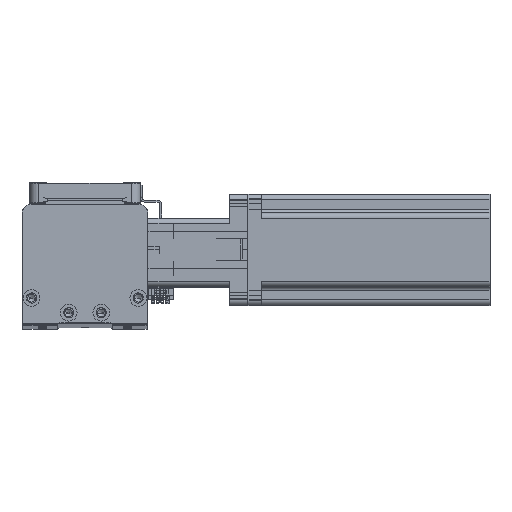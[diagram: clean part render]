
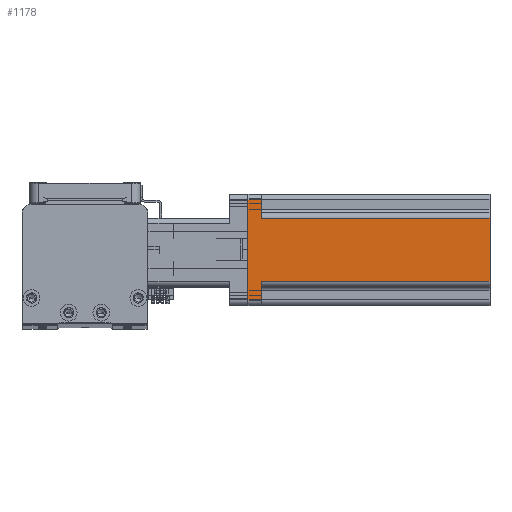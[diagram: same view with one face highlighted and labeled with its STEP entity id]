
A CAD part, top view. The second image highlights one B-rep face of the part: STEP entity #1178.
In plain terms, the highlighted planar face has unit normal (0, 0, 1) as drawn and (1, 0, 0) by its records, which use the part's own axes.
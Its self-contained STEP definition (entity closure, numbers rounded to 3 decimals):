
#156 = CARTESIAN_POINT ( 'NONE',  ( 30., -17., 7.5 ) ) ;
#222 = AXIS2_PLACEMENT_3D ( 'NONE', #35404, #35274, #35085 ) ;
#515 = FACE_OUTER_BOUND ( 'NONE', #14268, .T. ) ;
#1178 = ADVANCED_FACE ( 'NONE', ( #515 ), #37528, .F. ) ;
#2740 = DIRECTION ( 'NONE',  ( 0., 1., 0. ) ) ;
#3654 = CARTESIAN_POINT ( 'NONE',  ( 30., -27., 0. ) ) ;
#4729 = CARTESIAN_POINT ( 'NONE',  ( 30., -17., 7.5 ) ) ;
#5247 = DIRECTION ( 'NONE',  ( 0., -1., 0. ) ) ;
#5968 = VECTOR ( 'NONE', #5247, 1000. ) ;
#6791 = VERTEX_POINT ( 'NONE', #37636 ) ;
#8537 = VERTEX_POINT ( 'NONE', #44344 ) ;
#8849 = LINE ( 'NONE', #35181, #17633 ) ;
#9003 = VERTEX_POINT ( 'NONE', #42489 ) ;
#10009 = VECTOR ( 'NONE', #29462, 1000. ) ;
#10671 = ORIENTED_EDGE ( 'NONE', *, *, #31857, .T. ) ;
#11302 = VERTEX_POINT ( 'NONE', #38621 ) ;
#11330 = LINE ( 'NONE', #33420, #30100 ) ;
#12358 = VERTEX_POINT ( 'NONE', #21961 ) ;
#13183 = ORIENTED_EDGE ( 'NONE', *, *, #31565, .T. ) ;
#13857 = ORIENTED_EDGE ( 'NONE', *, *, #31641, .T. ) ;
#14268 = EDGE_LOOP ( 'NONE', ( #29726, #31354, #13183, #13857, #25403, #10671, #35554, #28436 ) ) ;
#15333 = VECTOR ( 'NONE', #37335, 1000. ) ;
#16513 = DIRECTION ( 'NONE',  ( 0., 0., 1. ) ) ;
#17491 = VERTEX_POINT ( 'NONE', #3654 ) ;
#17633 = VECTOR ( 'NONE', #16513, 1000. ) ;
#18205 = LINE ( 'NONE', #47362, #30529 ) ;
#20713 = CARTESIAN_POINT ( 'NONE',  ( 30., 17., 130.7 ) ) ;
#21961 = CARTESIAN_POINT ( 'NONE',  ( 30., 27., 7.5 ) ) ;
#24885 = EDGE_CURVE ( 'NONE', #17491, #9003, #46826, .T. ) ;
#25403 = ORIENTED_EDGE ( 'NONE', *, *, #24885, .T. ) ;
#25776 = DIRECTION ( 'NONE',  ( 0., 1., 0. ) ) ;
#27680 = VECTOR ( 'NONE', #30205, 1000. ) ;
#28436 = ORIENTED_EDGE ( 'NONE', *, *, #32158, .T. ) ;
#28696 = EDGE_CURVE ( 'NONE', #11302, #35637, #11330, .T. ) ;
#29462 = DIRECTION ( 'NONE',  ( 0., 0., 1. ) ) ;
#29528 = VECTOR ( 'NONE', #25776, 1000. ) ;
#29656 = DIRECTION ( 'NONE',  ( 0., 1., 0. ) ) ;
#29726 = ORIENTED_EDGE ( 'NONE', *, *, #28696, .F. ) ;
#29927 = LINE ( 'NONE', #47834, #10009 ) ;
#30005 = CARTESIAN_POINT ( 'NONE',  ( 30., -27., 130.7 ) ) ;
#30100 = VECTOR ( 'NONE', #29656, 1000. ) ;
#30205 = DIRECTION ( 'NONE',  ( 0., 0., -1. ) ) ;
#30529 = VECTOR ( 'NONE', #2740, 1000. ) ;
#31354 = ORIENTED_EDGE ( 'NONE', *, *, #31413, .T. ) ;
#31413 = EDGE_CURVE ( 'NONE', #11302, #31805, #38815, .T. ) ;
#31565 = EDGE_CURVE ( 'NONE', #31805, #6791, #45612, .T. ) ;
#31641 = EDGE_CURVE ( 'NONE', #6791, #17491, #35246, .T. ) ;
#31805 = VERTEX_POINT ( 'NONE', #4729 ) ;
#31857 = EDGE_CURVE ( 'NONE', #9003, #12358, #8849, .T. ) ;
#32067 = EDGE_CURVE ( 'NONE', #8537, #12358, #18205, .T. ) ;
#32158 = EDGE_CURVE ( 'NONE', #8537, #35637, #29927, .T. ) ;
#33420 = CARTESIAN_POINT ( 'NONE',  ( 30., -30., 130.7 ) ) ;
#35085 = DIRECTION ( 'NONE',  ( 0., 0., 1. ) ) ;
#35181 = CARTESIAN_POINT ( 'NONE',  ( 30., 27., 130.7 ) ) ;
#35246 = LINE ( 'NONE', #30005, #15333 ) ;
#35274 = DIRECTION ( 'NONE',  ( -1., 0., 0. ) ) ;
#35404 = CARTESIAN_POINT ( 'NONE',  ( 30., -30., 130.7 ) ) ;
#35554 = ORIENTED_EDGE ( 'NONE', *, *, #32067, .F. ) ;
#35637 = VERTEX_POINT ( 'NONE', #20713 ) ;
#37335 = DIRECTION ( 'NONE',  ( 0., 0., -1. ) ) ;
#37528 = PLANE ( 'NONE',  #222 ) ;
#37636 = CARTESIAN_POINT ( 'NONE',  ( 30., -27., 7.5 ) ) ;
#38621 = CARTESIAN_POINT ( 'NONE',  ( 30., -17., 130.7 ) ) ;
#38815 = LINE ( 'NONE', #156, #27680 ) ;
#42489 = CARTESIAN_POINT ( 'NONE',  ( 30., 27., 0. ) ) ;
#44344 = CARTESIAN_POINT ( 'NONE',  ( 30., 17., 7.5 ) ) ;
#44350 = CARTESIAN_POINT ( 'NONE',  ( 30., -30., 0. ) ) ;
#45612 = LINE ( 'NONE', #46143, #5968 ) ;
#46143 = CARTESIAN_POINT ( 'NONE',  ( 30., -30., 7.5 ) ) ;
#46826 = LINE ( 'NONE', #44350, #29528 ) ;
#47362 = CARTESIAN_POINT ( 'NONE',  ( 30., 30., 7.5 ) ) ;
#47834 = CARTESIAN_POINT ( 'NONE',  ( 30., 17., 130.7 ) ) ;
